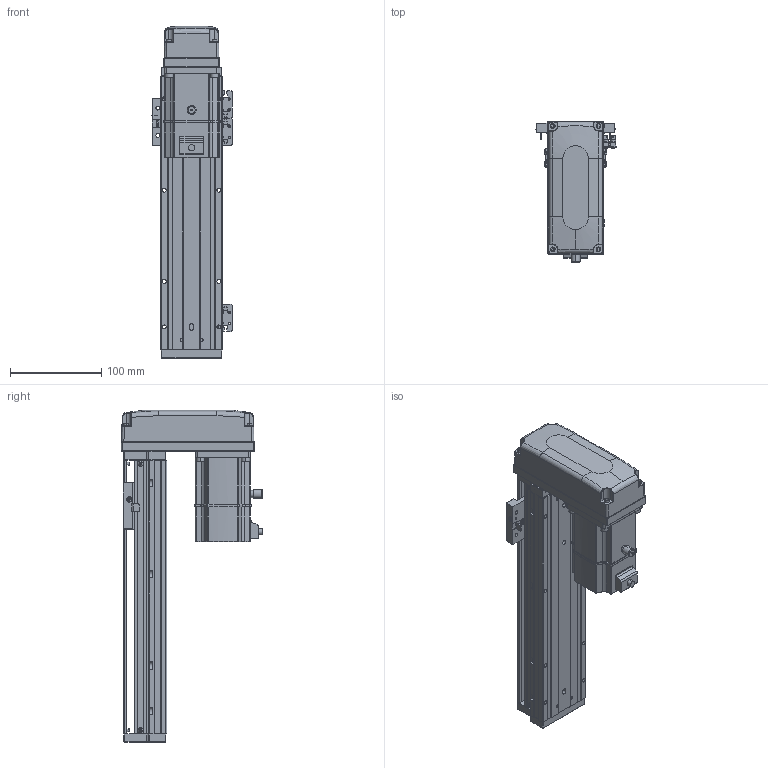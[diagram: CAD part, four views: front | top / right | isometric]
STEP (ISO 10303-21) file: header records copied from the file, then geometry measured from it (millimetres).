
FILE_DESCRIPTION (( 'STEP AP203' ), '1' );
FILE_NAME ('KTHA60-200-BM-M20-C4L.step', '2022-12-16T01:34:38', ( '微软用户' ), ( '微软中国' ), 'SwSTEP 2.0', 'SolidWorks 2020', '' );
FILE_SCHEMA (( 'CONFIG_CONTROL_DESIGN' ));
Length unit declared in the file: millimetre
Products named in the file (17): GBT 70.3-M3℅6; CTHA60-016; EE_SX911P_R; KTHA60-002; CTHA60-017; BTH80-026; KTHA60-001_300; CTHA60-021; CTHA60-006-2_CTHA60-006-2; KTHA60-004; GBT 70.1-M4×16; _X2_4E0983F1_X0_200W_1; KTHA60-005; GBT77-2000M3-3; KTHA60-200-BM-M20-C4L; GB¨uT 70.2-M3¡Á5_M3¡Á6; GBT 70.1-M3℅6
Assembly tree (51 placements, depth 2):
  KTHA60-200-BM-M20-C4L
    KTHA60-001_300
    KTHA60-004
    KTHA60-005
    GB¨uT 70.2-M3¡Á5_M3¡Á6  x6
    GBT 70.3-M3℅6  x4
    EE_SX911P_R  x3
    CTHA60-017  x3
    CTHA60-021  x2
    GBT 70.1-M4×16  x8
    GBT77-2000M3-3  x6
    GBT 70.1-M3℅6  x10
    CTHA60-016  x2
    KTHA60-002
    BTH80-026
    CTHA60-006-2_CTHA60-006-2
    _X2_4E0983F1_X0_200W_1
Bounding box: 87.72 x 155.2 x 364 mm (x, y, z)
Volume: 1023068 mm3; surface area: 269962.6 mm2
Topology: 54 solids, 54 shells, 2388 faces, 5661 edges, 3478 vertices
Faces by surface type: plane 1261, cylinder 632, cone 278, bspline 109, torus 92, sphere 16
Entity records: 43594 total; most frequent: CARTESIAN_POINT 10258, ORIENTED_EDGE 6370, DIRECTION 6368, EDGE_CURVE 3185, AXIS2_PLACEMENT_3D 2207, VERTEX_POINT 1987, LINE 1954, VECTOR 1954
